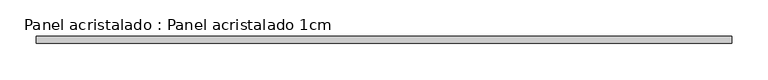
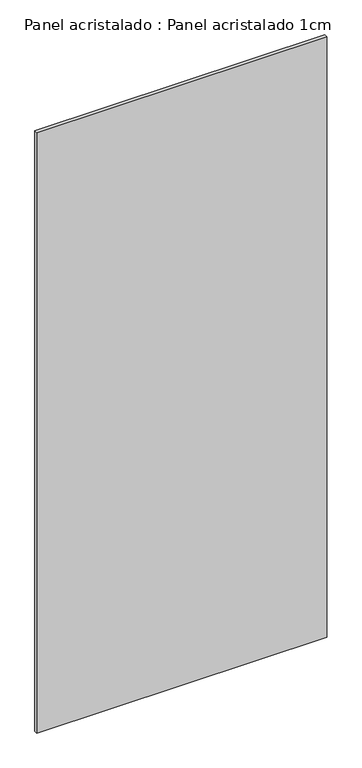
"""IFC4 building model written with IfcOpenShell, lengths in millimetres: plate geometry, Panel acristalado : Panel acristalado 1cm."""

from ifc_helpers import new_model, si_unit, origin, origin_with_axes, place, context, project, spatial, polyline, outline, extrude, source, transform, mapped, element, save


def panel_acristalado_panel_acristalado_1cm_32b484e9(model_context):
    return source(origin(), model_context, "Body", "SweptSolid", [
        extrude(outline(polyline([(479.7690213, -20.0), (479.7690213, -30.0), (-479.7690213, -30.0), (-479.7690213, -20.0), (479.7690213, -20.0)])), origin_with_axes(), (0.0, 0.0, 1.0), 2100.0),
    ])


if __name__ == "__main__":
    model = new_model("IFC4")
    model_context = context("Model", 3, world=origin())
    ifc_project = project(units=[si_unit("LENGTHUNIT", "METRE", prefix="MILLI")], contexts=[model_context])
    site = spatial("IfcSite", under=ifc_project)
    building = spatial("IfcBuilding", under=site)
    placement = place(None, origin())
    panel_acristalado_panel_acristalado_1cm_shape = panel_acristalado_panel_acristalado_1cm_32b484e9(model_context)
    element("IfcPlate", 1, ObjectType="Panel acristalado : Panel acristalado 1cm", at=placement, inside=building, context=model_context, shape_type="MappedRepresentation", body=[
        mapped(panel_acristalado_panel_acristalado_1cm_shape, transform((0.0, 0.0, 0.0), x_axis=(1.0, 0.0, 0.0), y_axis=(0.0, 1.0, 0.0), z_axis=(0.0, 0.0, 1.0))),
    ])
    save(model, "model.ifc")
